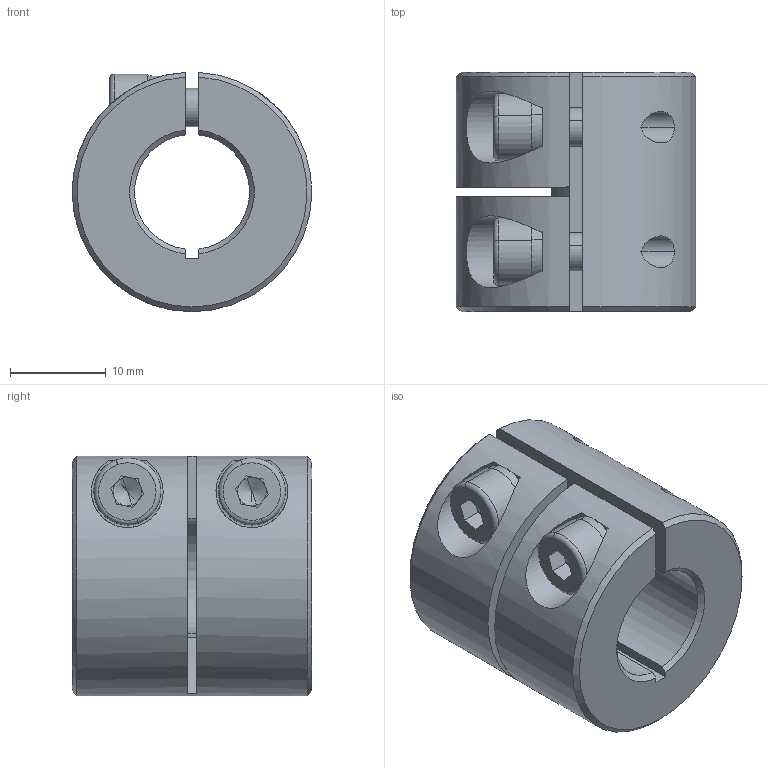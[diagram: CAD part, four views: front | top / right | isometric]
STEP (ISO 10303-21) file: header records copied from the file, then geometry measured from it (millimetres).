
FILE_DESCRIPTION (( 'STEP AP203' ), '1' );
FILE_NAME ('LL-B-D25L25-12-12.STEP', '2021-11-05T06:43:18', ( '' ), ( '' ), 'SwSTEP 2.0', 'SolidWorks 2018', '' );
FILE_SCHEMA (( 'CONFIG_CONTROL_DESIGN' ));
Length unit declared in the file: millimetre
Products named in the file (1): LL-B-D25L25-12-12
Bounding box: 24.99 x 25 x 24.98 mm (x, y, z)
Volume: 8837.1 mm3; surface area: 4874.1 mm2
Topology: 1 solids, 1 shells, 100 faces, 258 edges, 162 vertices
Faces by surface type: plane 50, cylinder 35, cone 11, torus 4
Entity records: 3335 total; most frequent: CARTESIAN_POINT 791, DIRECTION 536, ORIENTED_EDGE 508, EDGE_CURVE 254, AXIS2_PLACEMENT_3D 207, VERTEX_POINT 162, LINE 122, VECTOR 122
